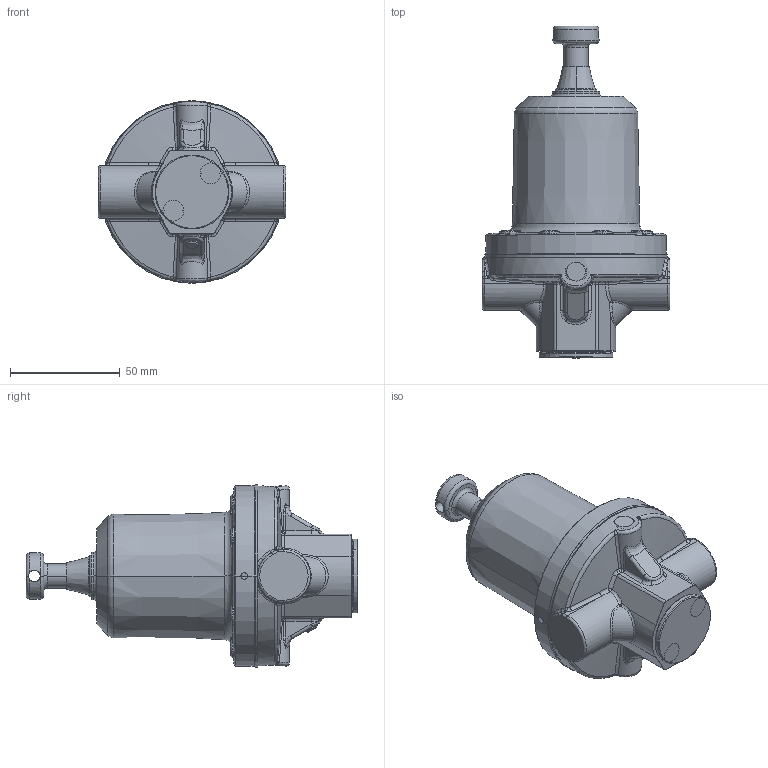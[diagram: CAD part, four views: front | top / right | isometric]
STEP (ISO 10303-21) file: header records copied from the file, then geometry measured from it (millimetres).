
FILE_DESCRIPTION((''),'2;1');
FILE_NAME('234263-EN-E_PRT','2019-12-31T16:07:15',('qusrh3'),(''),'CREO PARAMETRIC BY PTC INC, 2019030','CREO PARAMETRIC BY PTC INC, 2019030','');
FILE_SCHEMA(('CONFIG_CONTROL_DESIGN'));
Length unit declared in the file: inch
Products named in the file (1): 234263-EN-E_PRT
Bounding box: 85.3 x 150.89 x 83 mm (x, y, z)
Surface area: 55358.1 mm2 (no closed solid volume)
Topology: 0 solids, 22 shells, 374 faces, 881 edges, 522 vertices
Faces by surface type: cylinder 106, bspline 96, plane 76, cone 44, torus 28, sphere 20, extrusion 4
Entity records: 14759 total; most frequent: CARTESIAN_POINT 6866, ORIENTED_EDGE 1680, DIRECTION 1563, EDGE_CURVE 881, AXIS2_PLACEMENT_3D 666, VERTEX_POINT 522, CIRCLE 388, EDGE_LOOP 374
